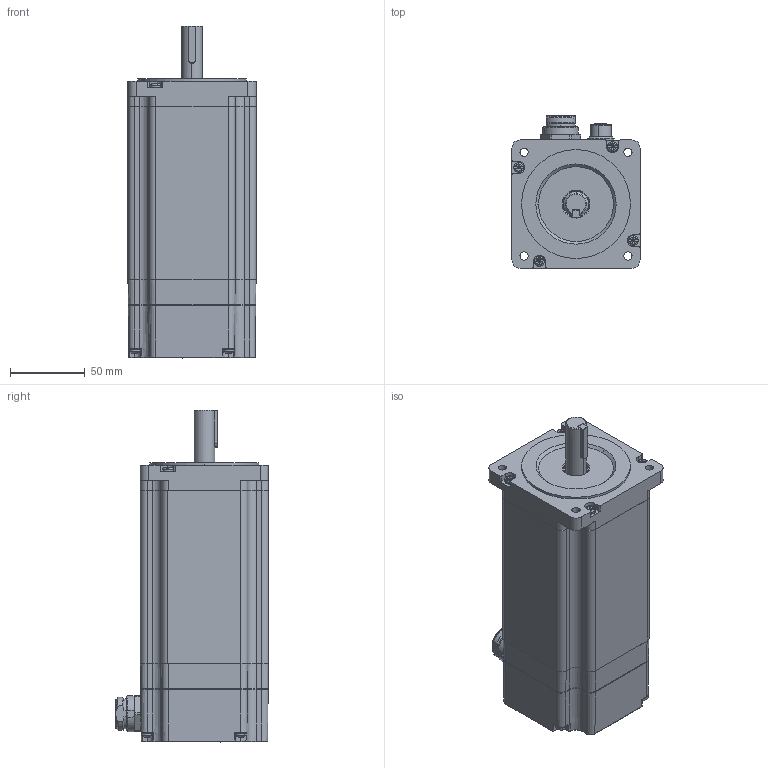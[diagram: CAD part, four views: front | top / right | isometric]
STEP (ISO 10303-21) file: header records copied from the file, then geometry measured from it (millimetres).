
FILE_DESCRIPTION (( 'STEP AP214' ), '1' );
FILE_NAME ('M86SH156-TO0512P24C.STEP', '2025-12-20T10:02:22', ( '' ), ( '' ), 'SwSTEP 2.0', 'SolidWorks 2019', '' );
FILE_SCHEMA (( 'AUTOMOTIVE_DESIGN' ));
Length unit declared in the file: millimetre
Products named in the file (1): M86SH156-TO0512P24C
Bounding box: 85.9 x 102.59 x 222.55 mm (x, y, z)
Surface area: 207493.4 mm2 (no closed solid volume)
Topology: 0 solids, 31 shells, 1931 faces, 4957 edges, 3155 vertices
Faces by surface type: plane 787, cylinder 538, bspline 255, cone 197, torus 138, sphere 16
Entity records: 92431 total; most frequent: CARTESIAN_POINT 26731, ORIENTED_EDGE 9794, DIRECTION 8172, EDGE_CURVE 4901, VERTEX_POINT 3155, AXIS2_PLACEMENT_3D 3080, EDGE_LOOP 2198, VECTOR 2012
